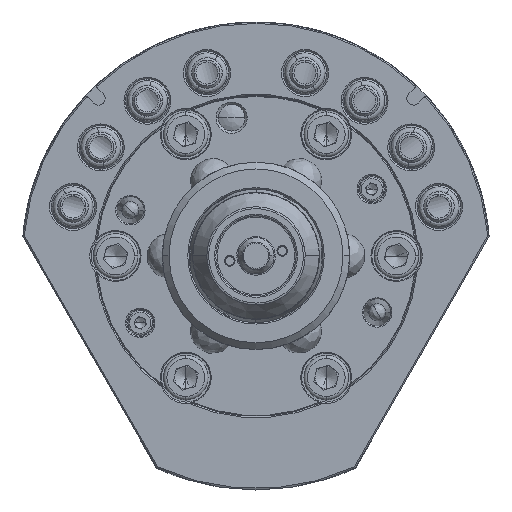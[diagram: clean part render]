
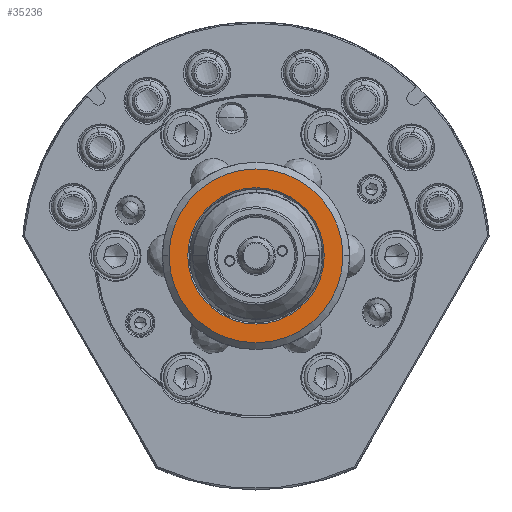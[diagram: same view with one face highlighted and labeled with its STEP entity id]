
A CAD part, top view. The second image highlights one B-rep face of the part: STEP entity #35236.
In plain terms, the highlighted planar face has unit normal (0, 0, 1).
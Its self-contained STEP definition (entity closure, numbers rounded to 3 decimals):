
#1565 = DIRECTION ( 'NONE',  ( 1., 0., 0. ) ) ;
#1697 = DIRECTION ( 'NONE',  ( -1., 0., 0. ) ) ;
#3612 = DIRECTION ( 'NONE',  ( 1., 0., 0. ) ) ;
#3850 = AXIS2_PLACEMENT_3D ( 'NONE', #38663, #6803, #1697 ) ;
#4074 = EDGE_CURVE ( 'NONE', #25060, #51338, #23604, .T. ) ;
#4702 = ORIENTED_EDGE ( 'NONE', *, *, #39393, .T. ) ;
#5362 = CARTESIAN_POINT ( 'NONE',  ( 19.5, 0., 17. ) ) ;
#5980 = CARTESIAN_POINT ( 'NONE',  ( 0., 0., 17. ) ) ;
#6703 = DIRECTION ( 'NONE',  ( 0., 0., -1. ) ) ;
#6803 = DIRECTION ( 'NONE',  ( 0., 0., -1. ) ) ;
#8182 = CIRCLE ( 'NONE', #3850, 19.5 ) ;
#8985 = CARTESIAN_POINT ( 'NONE',  ( 0., 0., 17. ) ) ;
#12531 = CARTESIAN_POINT ( 'NONE',  ( 0., 0., 17. ) ) ;
#14139 = VERTEX_POINT ( 'NONE', #26615 ) ;
#16567 = ORIENTED_EDGE ( 'NONE', *, *, #51666, .T. ) ;
#19425 = PLANE ( 'NONE',  #27783 ) ;
#23042 = AXIS2_PLACEMENT_3D ( 'NONE', #12531, #6703, #66014 ) ;
#23604 = CIRCLE ( 'NONE', #23042, 19.5 ) ;
#25060 = VERTEX_POINT ( 'NONE', #48346 ) ;
#25512 = ORIENTED_EDGE ( 'NONE', *, *, #4074, .F. ) ;
#25533 = VERTEX_POINT ( 'NONE', #35544 ) ;
#26615 = CARTESIAN_POINT ( 'NONE',  ( -15.3, 0., 17. ) ) ;
#27783 = AXIS2_PLACEMENT_3D ( 'NONE', #8985, #51498, #3612 ) ;
#33643 = DIRECTION ( 'NONE',  ( 0., 0., -1. ) ) ;
#34627 = DIRECTION ( 'NONE',  ( 0., 0., -1. ) ) ;
#35236 = ADVANCED_FACE ( 'NONE', ( #50031, #52554 ), #19425, .T. ) ;
#35544 = CARTESIAN_POINT ( 'NONE',  ( 15.3, 0., 17. ) ) ;
#38117 = EDGE_LOOP ( 'NONE', ( #25512, #44681 ) ) ;
#38663 = CARTESIAN_POINT ( 'NONE',  ( 0., 0., 17. ) ) ;
#39393 = EDGE_CURVE ( 'NONE', #25533, #14139, #48245, .T. ) ;
#44556 = AXIS2_PLACEMENT_3D ( 'NONE', #66520, #34627, #46914 ) ;
#44681 = ORIENTED_EDGE ( 'NONE', *, *, #46515, .F. ) ;
#46515 = EDGE_CURVE ( 'NONE', #51338, #25060, #8182, .T. ) ;
#46914 = DIRECTION ( 'NONE',  ( 1., 0., 0. ) ) ;
#48245 = CIRCLE ( 'NONE', #66322, 15.3 ) ;
#48346 = CARTESIAN_POINT ( 'NONE',  ( -19.5, 0., 17. ) ) ;
#50031 = FACE_BOUND ( 'NONE', #62535, .T. ) ;
#51338 = VERTEX_POINT ( 'NONE', #5362 ) ;
#51498 = DIRECTION ( 'NONE',  ( 0., 0., 1. ) ) ;
#51666 = EDGE_CURVE ( 'NONE', #14139, #25533, #63694, .T. ) ;
#52554 = FACE_OUTER_BOUND ( 'NONE', #38117, .T. ) ;
#62535 = EDGE_LOOP ( 'NONE', ( #4702, #16567 ) ) ;
#63694 = CIRCLE ( 'NONE', #44556, 15.3 ) ;
#66014 = DIRECTION ( 'NONE',  ( -1., 0., 0. ) ) ;
#66322 = AXIS2_PLACEMENT_3D ( 'NONE', #5980, #33643, #1565 ) ;
#66520 = CARTESIAN_POINT ( 'NONE',  ( 0., 0., 17. ) ) ;
